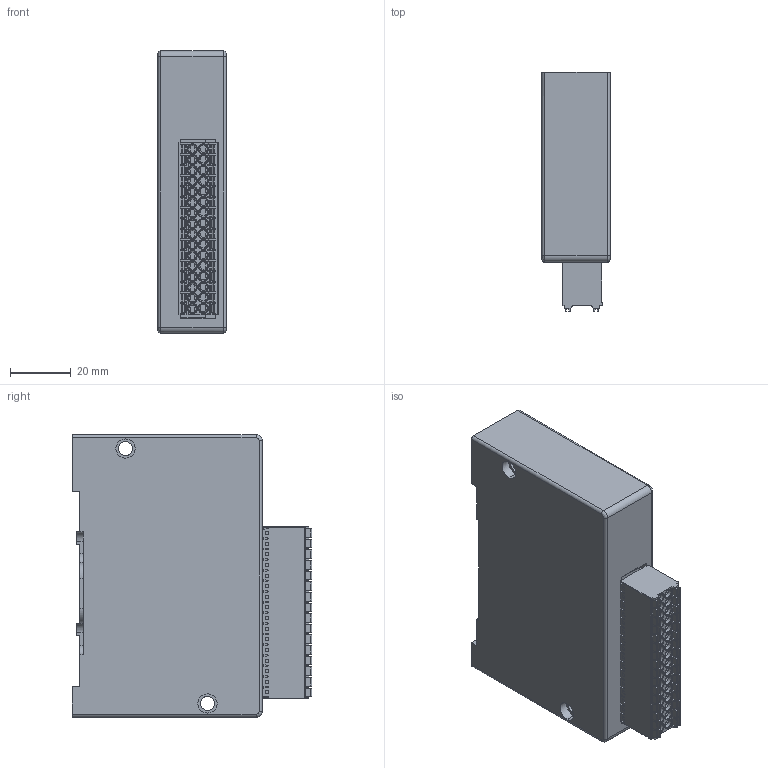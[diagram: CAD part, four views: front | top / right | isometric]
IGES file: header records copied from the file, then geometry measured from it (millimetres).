
Start section: ------------------------------------------------------------------------
Bounding box: 22.5 x 78.8 x 93 mm (x, y, z)
Volume: 133681.5 mm3; surface area: 26236.2 mm2
Topology: 1 solids, 1 shells, 1735 faces, 4540 edges, 2942 vertices
Faces by surface type: bspline 1735
